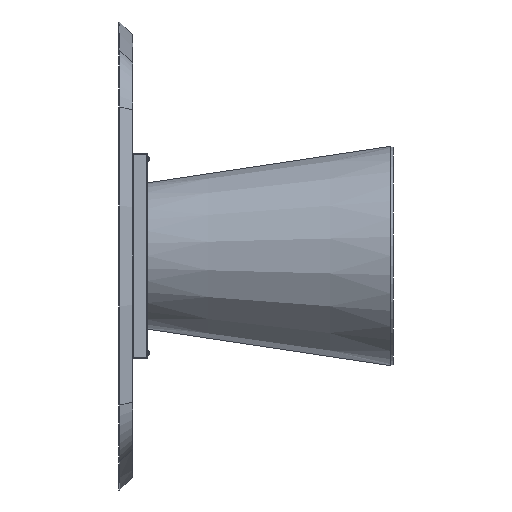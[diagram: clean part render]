
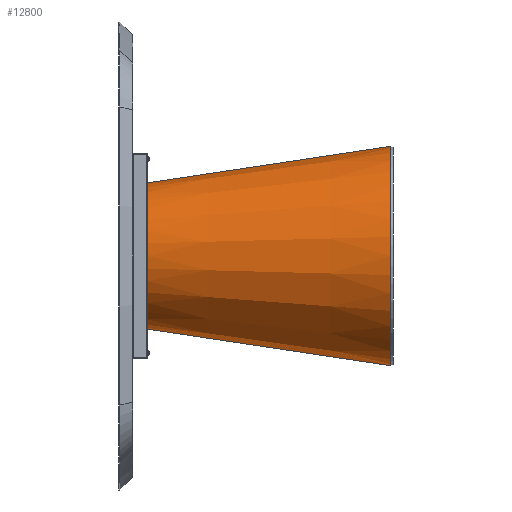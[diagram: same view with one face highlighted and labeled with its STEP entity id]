
A CAD part, left-side view. The second image highlights one B-rep face of the part: STEP entity #12800.
In plain terms, the highlighted conical face has half-angle 8.552 degrees and reference radius 200 mm.
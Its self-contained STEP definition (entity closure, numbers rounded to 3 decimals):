
#81 = CARTESIAN_POINT ( 'NONE',  ( 0., 673., -200. ) ) ;
#320 = DIRECTION ( 'NONE',  ( 0., 0., 1. ) ) ;
#415 = CONICAL_SURFACE ( 'NONE', #12863, 200., 0.149 ) ;
#441 = DIRECTION ( 'NONE',  ( 0., 0., -1. ) ) ;
#519 = EDGE_CURVE ( 'NONE', #8912, #13479, #13747, .T. ) ;
#547 = AXIS2_PLACEMENT_3D ( 'NONE', #4448, #12924, #1299 ) ;
#932 = DIRECTION ( 'NONE',  ( 0., -0.989, -0.149 ) ) ;
#1299 = DIRECTION ( 'NONE',  ( 0., 0., 1. ) ) ;
#2562 = AXIS2_PLACEMENT_3D ( 'NONE', #10782, #8417, #320 ) ;
#2711 = VERTEX_POINT ( 'NONE', #9992 ) ;
#3508 = VECTOR ( 'NONE', #932, 1000. ) ;
#3601 = ORIENTED_EDGE ( 'NONE', *, *, #10787, .F. ) ;
#3641 = CARTESIAN_POINT ( 'NONE',  ( 0., 673., 200. ) ) ;
#3855 = CARTESIAN_POINT ( 'NONE',  ( 0., 673., 0. ) ) ;
#4185 = CARTESIAN_POINT ( 'NONE',  ( 0., 673., -200. ) ) ;
#4448 = CARTESIAN_POINT ( 'NONE',  ( 0., 673., 0. ) ) ;
#4502 = VECTOR ( 'NONE', #14838, 1000. ) ;
#5243 = FACE_OUTER_BOUND ( 'NONE', #14139, .T. ) ;
#5264 = CIRCLE ( 'NONE', #2562, 300. ) ;
#7357 = CIRCLE ( 'NONE', #547, 200. ) ;
#8099 = VERTEX_POINT ( 'NONE', #9699 ) ;
#8366 = LINE ( 'NONE', #3641, #4502 ) ;
#8417 = DIRECTION ( 'NONE',  ( 0., 1., 0. ) ) ;
#8912 = VERTEX_POINT ( 'NONE', #81 ) ;
#9268 = CARTESIAN_POINT ( 'NONE',  ( 0., 8., -300. ) ) ;
#9699 = CARTESIAN_POINT ( 'NONE',  ( 0., 8., 300. ) ) ;
#9992 = CARTESIAN_POINT ( 'NONE',  ( 0., 673., 200. ) ) ;
#10214 = ORIENTED_EDGE ( 'NONE', *, *, #11857, .T. ) ;
#10782 = CARTESIAN_POINT ( 'NONE',  ( 0., 8., 0. ) ) ;
#10787 = EDGE_CURVE ( 'NONE', #2711, #8099, #8366, .T. ) ;
#10900 = DIRECTION ( 'NONE',  ( 0., -1., 0. ) ) ;
#11638 = ORIENTED_EDGE ( 'NONE', *, *, #14573, .F. ) ;
#11857 = EDGE_CURVE ( 'NONE', #13479, #8099, #5264, .T. ) ;
#12618 = ORIENTED_EDGE ( 'NONE', *, *, #519, .T. ) ;
#12800 = ADVANCED_FACE ( 'NONE', ( #5243 ), #415, .T. ) ;
#12863 = AXIS2_PLACEMENT_3D ( 'NONE', #3855, #10900, #441 ) ;
#12924 = DIRECTION ( 'NONE',  ( 0., 1., 0. ) ) ;
#13479 = VERTEX_POINT ( 'NONE', #9268 ) ;
#13747 = LINE ( 'NONE', #4185, #3508 ) ;
#14139 = EDGE_LOOP ( 'NONE', ( #3601, #11638, #12618, #10214 ) ) ;
#14573 = EDGE_CURVE ( 'NONE', #8912, #2711, #7357, .T. ) ;
#14838 = DIRECTION ( 'NONE',  ( 0., -0.989, 0.149 ) ) ;
